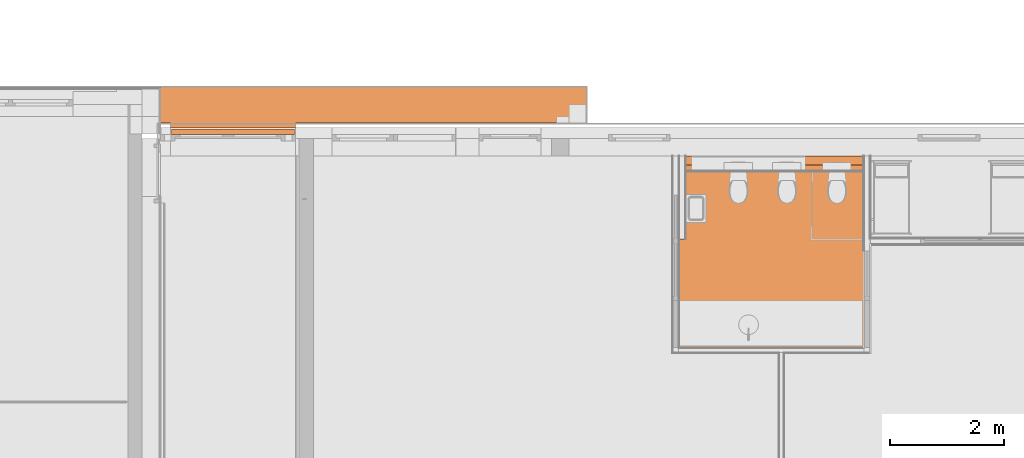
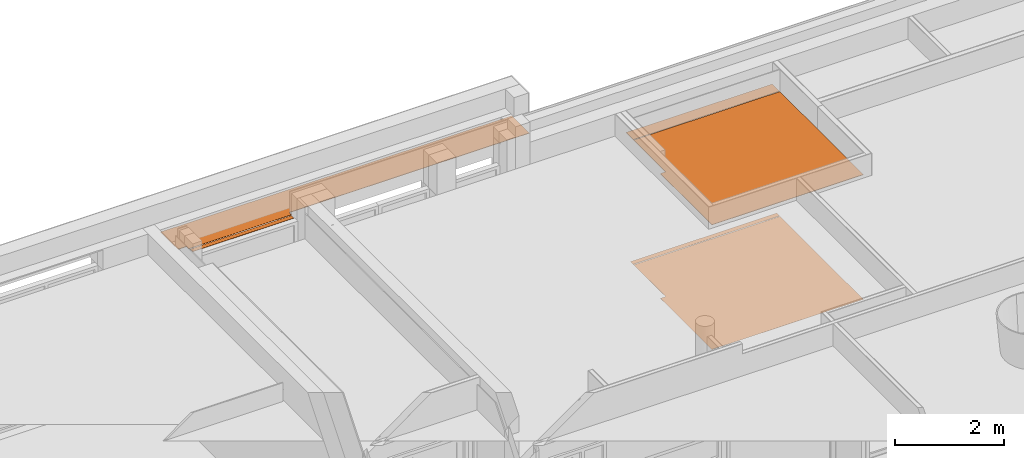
# One storey, part 161 of 167: 3 proxies.
"""IFC2X3 building model written with IfcOpenShell, lengths in millimetres."""

import ifcopenshell
import ifcopenshell.guid

model = None  # the IFC model being written
_history = None  # IfcOwnerHistory: only IFC2X3 demands one
_inside = {}  # id of a spatial element -> (the spatial element, [elements in it])
_under = {}  # id of a project, library or spatial element -> (it, [spatial elements below it])
_declared = {}  # id of a project -> (the project, [libraries it declares])
_typed = {}  # id of a type object -> (the type object, [elements of that type])
_made_of = {}  # id of a material, layer set ... -> (it, [elements and type objects made of it])


def new_model(schema):
    """Start an empty IFC model of exactly this schema.

    Asked for "IFC4X3", IfcOpenShell would pick the latest addendum, in which some entities
    have other attributes; the version numbers below select the first issue.
    IFC2X3 requires an IfcOwnerHistory on every rooted entity: one is made here for all.
    """
    global model, _history
    if schema == "IFC4X3":
        model = ifcopenshell.file(schema_version=(4, 3, 0, 0))
    else:
        model = ifcopenshell.file(schema=schema)
    _inside.clear()
    _under.clear()
    _declared.clear()
    _typed.clear()
    _made_of.clear()
    _history = None
    if model.schema == "IFC2X3":
        org = make("IfcOrganization", Name="unknown")
        user = make(
            "IfcPersonAndOrganization",
            ThePerson=make("IfcPerson", FamilyName="unknown"),
            TheOrganization=org,
        )
        app = make(
            "IfcApplication",
            ApplicationDeveloper=org,
            Version="unknown",
            ApplicationFullName="unknown",
            ApplicationIdentifier="unknown",
        )
        _history = make(
            "IfcOwnerHistory",
            OwningUser=user,
            OwningApplication=app,
            ChangeAction="ADDED",
            CreationDate=0,
        )
    return model


def make(cls, **values):
    """One entity of the class cls with the attributes given. An attribute that is None is left unset."""
    return model.create_entity(
        cls, **{name: value for name, value in values.items() if value is not None}
    )


def entity(cls, *values):
    """Any entity or typed value of the class cls, its attributes in the order of the schema. None: left unset."""
    e = model.create_entity(cls)
    for i, value in enumerate(values):
        if value is not None:
            e[i] = value
    return e


def rooted(cls, **values):
    """An entity with a GlobalId (a new one), such as an element, a storey or a relation."""
    return make(cls, GlobalId=ifcopenshell.guid.new(), OwnerHistory=_history, **values)


def si_unit(unit_type, name, prefix=None):
    """IfcSIUnit, for example si_unit("LENGTHUNIT", "METRE", prefix="MILLI")."""
    return make("IfcSIUnit", UnitType=unit_type, Prefix=prefix, Name=name)


def converted_unit(unit_type, name, factor, base, dimensions=None, offset=None):
    """IfcConversionBasedUnit, such as the inch: factor (a typed value) times the base unit."""
    return make(
        "IfcConversionBasedUnit"
        if offset is None
        else "IfcConversionBasedUnitWithOffset",
        ConversionOffset=offset,
        Dimensions=None
        if dimensions is None
        else entity("IfcDimensionalExponents", *dimensions),
        UnitType=unit_type,
        Name=name,
        ConversionFactor=make(
            "IfcMeasureWithUnit", ValueComponent=factor, UnitComponent=base
        ),
    )


def derived_unit(unit_type, elements):
    """IfcDerivedUnit: a product of units, each with its exponent."""
    return make(
        "IfcDerivedUnit",
        Elements=[
            make("IfcDerivedUnitElement", Unit=unit, Exponent=power)
            for unit, power in elements
        ],
        UnitType=unit_type,
    )


def money_unit(currency):
    """IfcMonetaryUnit."""
    return make("IfcMonetaryUnit", Currency=currency)


def assignment(units):
    """IfcUnitAssignment: the units of a project."""
    return None if units is None else make("IfcUnitAssignment", Units=units)


def point(xyz):
    """IfcCartesianPoint."""
    return None if xyz is None else make("IfcCartesianPoint", Coordinates=xyz)


def direction(xyz):
    """IfcDirection."""
    return None if xyz is None else make("IfcDirection", DirectionRatios=xyz)


def frame(location, z_axis=None, x_axis=None):
    """IfcAxis2Placement3D, a coordinate frame: its origin and axes. An axis left out is left unset."""
    return make(
        "IfcAxis2Placement3D",
        Location=point(location),
        Axis=direction(z_axis),
        RefDirection=direction(x_axis),
    )


def origin_with_axes():
    """The frame at (0, 0, 0) with the z axis (0, 0, 1) and the x axis (1, 0, 0) written out."""
    return frame((0.0, 0.0, 0.0), z_axis=(0.0, 0.0, 1.0), x_axis=(1.0, 0.0, 0.0))


def place(relative_to, where):
    """IfcLocalPlacement: puts the frame where relative to a parent placement (None: the world)."""
    return make(
        "IfcLocalPlacement", PlacementRelTo=relative_to, RelativePlacement=where
    )


def context(
    kind, dimensions, precision=None, world=None, true_north=None, identifier=None
):
    """IfcGeometricRepresentationContext, for example the 3D "Model" context."""
    return make(
        "IfcGeometricRepresentationContext",
        ContextIdentifier=identifier,
        ContextType=kind,
        CoordinateSpaceDimension=dimensions,
        Precision=precision,
        WorldCoordinateSystem=world,
        TrueNorth=true_north,
    )


def subcontext(parent, identifier, kind, view, scale=None):
    """IfcGeometricRepresentationSubContext, for example "Body" below "Model"."""
    return make(
        "IfcGeometricRepresentationSubContext",
        ContextIdentifier=identifier,
        ContextType=kind,
        ParentContext=parent,
        TargetScale=scale,
        TargetView=view,
    )


def project(units=None, contexts=None):
    """IfcProject with its units and contexts."""
    return rooted(
        "IfcProject",
        Name="project",
        RepresentationContexts=contexts,
        UnitsInContext=assignment(units),
    )


def spatial(cls, under=None, at=None, **own):
    """A site, building, storey or space (cls), placed at a placement, below another one or the project."""
    s = rooted(cls, ObjectPlacement=at, **own)
    if under is not None:
        _under.setdefault(under.id(), (under, []))[1].append(s)
    return s


def faces_of(points, faces, orient=None, outer=None):
    """IfcFace entities. A face is a list of loops; a loop is a list of indices into points, from 0.

    orient and outer hold one flag for each loop. By default every Orientation is true, the
    first loop of a face is its IfcFaceOuterBound and the others are IfcFaceBound.
    """
    made = []
    for i, loops in enumerate(faces):
        bounds = []
        for j, loop in enumerate(loops):
            is_outer = j == 0 if outer is None else outer[i][j]
            bounds.append(
                make(
                    "IfcFaceOuterBound" if is_outer else "IfcFaceBound",
                    Bound=make("IfcPolyLoop", Polygon=[points[k] for k in loop]),
                    Orientation=True if orient is None else orient[i][j],
                )
            )
        made.append(make("IfcFace", Bounds=bounds))
    return made


def faceted_brep(points, faces, orient=None, outer=None, voids=None):
    """IfcFacetedBrep: a solid bounded by flat faces; with voids (closed shells), ...WithVoids."""
    shared = [point(p) for p in points]
    hull = make("IfcClosedShell", CfsFaces=faces_of(shared, faces, orient, outer))
    if voids is None:
        return make("IfcFacetedBrep", Outer=hull)
    return make(
        "IfcFacetedBrepWithVoids",
        Outer=hull,
        Voids=[
            make(cls, CfsFaces=faces_of(shared, fs, o, b)) for cls, fs, o, b in voids
        ],
    )


def shape(context_of_items, identifier, shape_type, items):
    """IfcShapeRepresentation: the items that make up one representation, for example the "Body"."""
    return make(
        "IfcShapeRepresentation",
        ContextOfItems=context_of_items,
        RepresentationIdentifier=identifier,
        RepresentationType=shape_type,
        Items=items,
    )


def material(Name=None, Category=None):
    """IfcMaterial."""
    return make("IfcMaterial", Name=Name, Category=Category)


def made_of(thing, what):
    """Note that an element or type object is made of a material, layer set ...; save() writes the relation."""
    if what is not None:
        _made_of.setdefault(what.id(), (what, []))[1].append(thing)
    return thing


def type_object(cls, material=None, **own):
    """A type object (cls), such as IfcWallType, which elements share."""
    return made_of(rooted(cls, **own), material)


def element(
    cls,
    number,
    at=None,
    inside=None,
    cuts=None,
    type_object=None,
    material=None,
    context=None,
    identifier="Body",
    shape_type=None,
    held_by="IfcProductDefinitionShape",
    body=None,
    shapes=None,
    **own,
):
    """One element of the class cls, such as IfcWall. Its Tag is "e" and its number.

    at: its placement. inside: the storey or other place that contains it. cuts: it is an
    opening in that element (IfcRelVoidsElement). A single representation is given by context,
    identifier, shape_type and body (its items); several are given by shapes. held_by: the class
    of the entity that holds the representations. save() writes the other relations.
    """
    e = rooted(cls, Tag="e%d" % number, ObjectPlacement=at, **own)
    if body is not None:
        shapes = [shape(context, identifier, shape_type, body)]
    if shapes is not None:
        e.Representation = make(held_by, Representations=shapes)
    if inside is not None:
        _inside.setdefault(inside.id(), (inside, []))[1].append(e)
    if cuts is not None:
        rooted(
            "IfcRelVoidsElement", RelatingBuildingElement=cuts, RelatedOpeningElement=e
        )
    if type_object is not None:
        _typed.setdefault(type_object.id(), (type_object, []))[1].append(e)
    return made_of(e, material)


def aggregate(whole, parts):
    """IfcRelAggregates: a whole, such as a stair, and the parts it consists of."""
    return rooted("IfcRelAggregates", RelatingObject=whole, RelatedObjects=parts)


def save(model, path):
    """Write the relations noted so far, then the file.

    IfcRelAggregates (storeys below a building ...), IfcRelContainedInSpatialStructure (elements
    in a storey), IfcRelDefinesByType, IfcRelAssociatesMaterial and IfcRelDeclares: one each for
    every whole, place, type object, material and project.
    """
    for whole, parts in _under.values():
        aggregate(whole, parts)
    for where, things in _inside.values():
        rooted(
            "IfcRelContainedInSpatialStructure",
            RelatedElements=things,
            RelatingStructure=where,
        )
    for kind, things in _typed.values():
        rooted("IfcRelDefinesByType", RelatedObjects=things, RelatingType=kind)
    for what, things in _made_of.values():
        rooted("IfcRelAssociatesMaterial", RelatedObjects=things, RelatingMaterial=what)
    for by, libraries in _declared.values():
        rooted("IfcRelDeclares", RelatingContext=by, RelatedDefinitions=libraries)
    model.write(path)


model = new_model("IFC2X3")

# Units and contexts
model_context = context("Model", 3, precision=0.01, world=origin_with_axes(), true_north=direction((0.0, 1.0)))
plan_context = context("Plan", 3, precision=0.01, world=origin_with_axes(), true_north=direction((0.0, 1.0)))
body_context = subcontext(model_context, "Body", "Model", "MODEL_VIEW")
ifc_project = project(units=[si_unit("LENGTHUNIT", "METRE", prefix="MILLI"), si_unit("AREAUNIT", "SQUARE_METRE"), si_unit("VOLUMEUNIT", "CUBIC_METRE"), converted_unit("PLANEANGLEUNIT", "DEGREE", entity("IfcPlaneAngleMeasure", 0.0174532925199), si_unit("PLANEANGLEUNIT", "RADIAN"), dimensions=[0, 0, 0, 0, 0, 0, 0]), si_unit("SOLIDANGLEUNIT", "STERADIAN"), money_unit("EUR"), converted_unit("TIMEUNIT", "Year", entity("IfcTimeMeasure", 31556926.0), si_unit("TIMEUNIT", "SECOND"), dimensions=[0, 0, 1, 0, 0, 0, 0]), si_unit("MASSUNIT", "GRAM", prefix="KILO"), si_unit("THERMODYNAMICTEMPERATUREUNIT", "DEGREE_CELSIUS"), si_unit("LUMINOUSINTENSITYUNIT", "LUMEN"), si_unit("ENERGYUNIT", "JOULE", prefix="MEGA"), derived_unit("THERMALCONDUCTANCEUNIT", [(si_unit("POWERUNIT", "WATT"), 1), (si_unit("LENGTHUNIT", "METRE"), -1), (si_unit("THERMODYNAMICTEMPERATUREUNIT", "KELVIN"), -1)]), derived_unit("SPECIFICHEATCAPACITYUNIT", [(si_unit("ENERGYUNIT", "JOULE"), 1), (si_unit("MASSUNIT", "GRAM", prefix="KILO"), -1), (si_unit("THERMODYNAMICTEMPERATUREUNIT", "KELVIN"), -1)]), derived_unit("MASSDENSITYUNIT", [(si_unit("MASSUNIT", "GRAM", prefix="KILO"), 1), (si_unit("VOLUMEUNIT", "CUBIC_METRE"), -1)])], contexts=[model_context, plan_context])

# Site, building, storey
site_placement = place(None, origin_with_axes())
site = spatial("IfcSite", under=ifc_project, at=site_placement, Name="Site", CompositionType="ELEMENT")
building_placement = place(site_placement, origin_with_axes())
building = spatial("IfcBuilding", under=site, at=building_placement, Name="Naam gebouw", CompositionType="ELEMENT")
storey_placement = place(building_placement, origin_with_axes())
storey = spatial("IfcBuildingStorey", under=building, at=storey_placement, Name="Begane grond", CompositionType="ELEMENT", Elevation=0.0)

# Proxies
ifc_material_1 = material(Name="ALG - BINNENAFWERKING")
building_element_proxy_type_1 = type_object("IfcBuildingElementProxyType", Name="ALG - BINNENAFWERKING 10", PredefinedType="NOTDEFINED")
proxy_1_placement = place(storey_placement, frame((31137.4999301, 46140.9999441, 2800.0), z_axis=(0.0, 0.0, 1.0), x_axis=(1.0, 0.0, 0.0)))
element("IfcBuildingElementProxy", 1, at=proxy_1_placement, inside=storey, type_object=building_element_proxy_type_1, material=ifc_material_1, Name="23__Vloer-x", context=body_context, shape_type="Brep", body=[
    faceted_brep([(3225.00000076, 3079.00005589, 0.0), (112.50002289, 3079.00005589, 0.0), (112.50002289, 3079.00005589, 10.0), (3225.00000076, 3079.00005589, 10.0), (2.28903367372e-05, 1899.99999208, 0.0), (112.50002289, 1899.99999208, 0.0), (3225.00000084, 0.0, 0.0), (0.0, 0.0, 0.0), (112.50002289, 1899.99999208, 10.0), (2.28903367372e-05, 1899.99999208, 10.0), (0.0, 0.0, 10.0), (3225.00000084, 0.0, 10.0)], [[[0, 1, 2, 3]], [[4, 5, 1, 0, 6, 7]], [[5, 8, 2, 1]], [[2, 8, 9, 10, 11, 3]], [[6, 0, 3, 11]], [[9, 8, 5, 4]], [[7, 6, 11, 10]], [[10, 9, 4, 7]]]),
    faceted_brep([(3225.00000076, 3359.00005589, 0.0), (112.50002289, 3359.00005589, 0.0), (112.50002289, 3359.00005589, 10.0), (3225.00000076, 3359.00005589, 10.0), (3225.00000076, 3094.00005589, 0.0), (112.50002289, 3094.00005589, 0.0), (112.50002289, 3094.00005589, 10.0), (3225.00000076, 3094.00005589, 10.0)], [[[0, 1, 2, 3]], [[4, 5, 1, 0]], [[5, 6, 2, 1]], [[3, 2, 6, 7]], [[3, 7, 4, 0]], [[7, 6, 5, 4]]]),
])
proxy_2_placement = place(storey_placement, frame((22049.0, 49874.0, 3045.0), z_axis=(0.0, 0.0, 1.0), x_axis=(1.0, 0.0, 0.0)))
element("IfcBuildingElementProxy", 2, at=proxy_2_placement, inside=storey, type_object=building_element_proxy_type_1, material=ifc_material_1, Name="23__Vloer-x", context=body_context, shape_type="Brep", body=[
    faceted_brep([(194.000009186, 0.0, 10.0), (2348.00000919, 0.0, 10.0), (2348.00000919, 96.0, 10.0), (194.000009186, 96.0, 10.0), (194.000009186, 0.0, 5.0), (2348.00000919, 0.0, 5.0), (2348.00000919, 96.0, 5.0), (194.000009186, 96.0, 5.0)], [[[0, 1, 2, 3]], [[4, 5, 1, 0]], [[5, 6, 2, 1]], [[3, 2, 6, 7]], [[4, 0, 3, 7]], [[7, 6, 5, 4]]]),
    faceted_brep([(0.0, 312.0, 5.0), (6937.0, 312.0, 5.0), (6937.0, 202.740782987, 5.0), (7475.0, 202.740782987, 5.0), (7475.0, 830.0, 5.0), (7475.0, 850.0, 5.0), (0.0, 850.0, 5.0), (0.0, 312.0, 10.0), (6937.0, 312.0, 10.0), (6937.0, 202.740782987, 10.0), (7475.0, 202.740782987, 10.0), (7475.0, 200.0, 10.0), (7475.0, 200.0, 0.0), (7475.0, 850.0, 0.0), (0.0, 850.0, 0.0), (0.0, 200.0, 0.0), (0.0, 200.0, 10.0), (176.000009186, 200.0, 10.0), (176.000009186, 114.0, 10.0), (2366.00000919, 114.0, 10.0), (2366.00000919, 200.0, 10.0), (2366.00000919, 200.0, 5.0), (2366.00000919, 200.0, 0.0), (176.000009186, 200.0, 5.0), (176.000009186, 114.0, 5.0), (2366.00000919, 114.0, 5.0)], [[[0, 1, 2, 3, 4, 5, 6]], [[7, 8, 1, 0]], [[2, 1, 8, 9]], [[3, 2, 9, 10]], [[4, 3, 10, 11, 12, 13, 5]], [[14, 6, 5, 13]], [[7, 0, 6, 14, 15, 16]], [[10, 9, 8, 7, 16, 17, 18, 19, 20, 11]], [[20, 21, 22, 12, 11]], [[12, 22, 15, 14, 13]], [[15, 22, 21, 23, 17, 16]], [[23, 24, 18, 17]], [[24, 25, 19, 18]], [[20, 19, 25, 21]], [[21, 25, 24, 23]]]),
])
ifc_material_2 = material(Name="_TenW_43_Flexx F15")
building_element_proxy_type_2 = type_object("IfcBuildingElementProxyType", Name="_TenW_43_Flexx F15 2", PredefinedType="NOTDEFINED")
proxy_3_placement = place(storey_placement, frame((31124.9999301, 49340.0000154, 0.0), z_axis=(0.0, 0.0, 1.0), x_axis=(1.0, 0.0, 0.0)))
element("IfcBuildingElementProxy", 3, at=proxy_3_placement, inside=storey, type_object=building_element_proxy_type_2, material=ifc_material_2, Name="23__Vloer-x", context=body_context, shape_type="Brep", body=[
    faceted_brep([(3237.49995886, -120.000015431, 0.0), (125.00002289, -120.000015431, 0.0), (125.00002289, -120.000015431, 2.0), (3237.49995886, -120.000015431, 2.0), (12.5000228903, -1299.00007924, 0.0), (125.00002289, -1299.00007924, 0.0), (3237.49995886, -3199.00007132, 0.0), (12.5, -3199.00007132, 0.0), (125.00002289, -1299.00007924, 2.0), (12.5000228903, -1299.00007924, 2.0), (12.5, -3199.00007132, 2.0), (3237.49995886, -3199.00007132, 2.0)], [[[0, 1, 2, 3]], [[4, 5, 1, 0, 6, 7]], [[5, 8, 2, 1]], [[2, 8, 9, 10, 11, 3]], [[6, 0, 3, 11]], [[9, 8, 5, 4]], [[11, 10, 7, 6]], [[10, 9, 4, 7]]]),
    faceted_brep([(3237.49995886, 0.0, 0.0), (125.00002289, 0.0, 0.0), (125.00002289, 0.0, 2.0), (3237.49995886, 0.0, 2.0), (3237.49995886, -105.000015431, 0.0), (125.00002289, -105.000015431, 0.0), (125.00002289, -105.000015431, 2.0), (3237.49995886, -105.000015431, 2.0)], [[[0, 1, 2, 3]], [[4, 5, 1, 0]], [[5, 6, 2, 1]], [[3, 2, 6, 7]], [[3, 7, 4, 0]], [[7, 6, 5, 4]]]),
])

save(model, "model.ifc")
